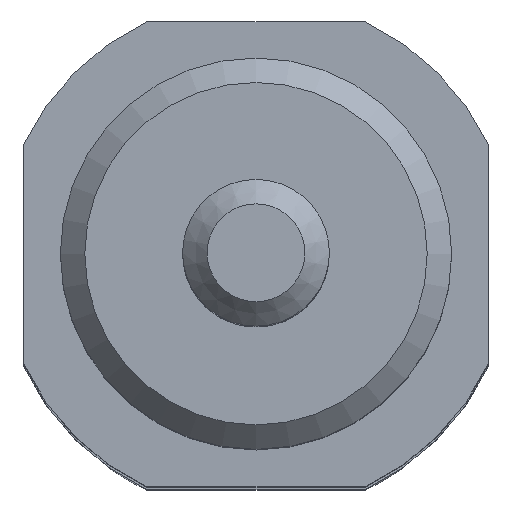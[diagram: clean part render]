
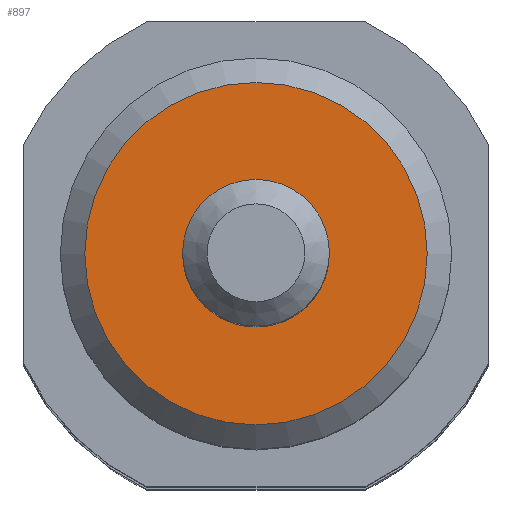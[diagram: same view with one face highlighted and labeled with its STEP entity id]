
A CAD part, top view. The second image highlights one B-rep face of the part: STEP entity #897.
In plain terms, the highlighted planar face has unit normal (0, 0, 1).
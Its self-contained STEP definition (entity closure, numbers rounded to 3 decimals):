
#835=CARTESIAN_POINT('',(7.,0.,108.));
#836=VERTEX_POINT('',#835);
#837=CARTESIAN_POINT('',(0.,0.,108.));
#838=DIRECTION('',(0.0,0.0,-1.0));
#839=DIRECTION('',(-1.0,0.0,0.0));
#840=AXIS2_PLACEMENT_3D('',#837,#838,#839);
#841=CIRCLE('',#840,7.);
#842=EDGE_CURVE('',#836,#836,#841,.T.);
#878=CARTESIAN_POINT('',(0.,0.,108.));
#879=DIRECTION('',(0.0,0.0,-1.0));
#880=DIRECTION('',(-1.0,0.0,0.0));
#881=AXIS2_PLACEMENT_3D('',#878,#879,#880);
#882=PLANE('',#881);
#883=ORIENTED_EDGE('',*,*,#842,.F.);
#884=EDGE_LOOP('',(#883));
#885=FACE_OUTER_BOUND('',#884,.T.);
#886=CARTESIAN_POINT('',(3.,0.,108.));
#887=VERTEX_POINT('',#886);
#888=CARTESIAN_POINT('',(0.,0.,108.));
#889=DIRECTION('',(0.0,0.0,-1.0));
#890=DIRECTION('',(-1.0,0.0,0.0));
#891=AXIS2_PLACEMENT_3D('',#888,#889,#890);
#892=CIRCLE('',#891,3.);
#893=EDGE_CURVE('',#887,#887,#892,.T.);
#894=ORIENTED_EDGE('',*,*,#893,.T.);
#895=EDGE_LOOP('',(#894));
#896=FACE_BOUND('',#895,.T.);
#897=ADVANCED_FACE('',(#885,#896),#882,.F.);
